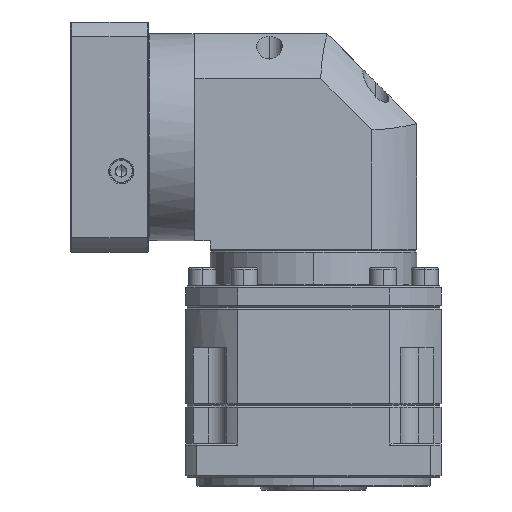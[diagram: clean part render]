
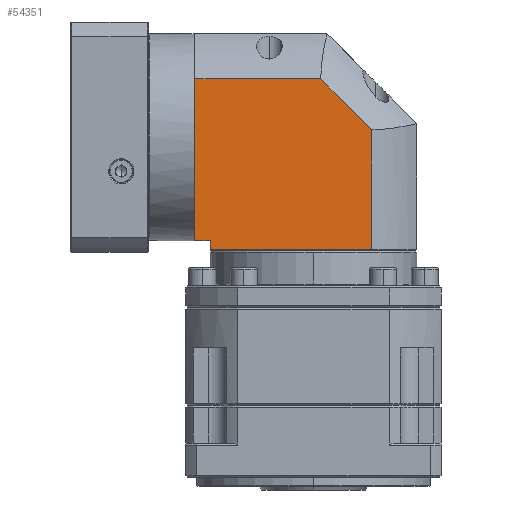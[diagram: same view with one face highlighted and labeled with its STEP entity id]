
A CAD part, left-side view. The second image highlights one B-rep face of the part: STEP entity #54351.
In plain terms, the highlighted planar face has unit normal (-1, 0, 0).
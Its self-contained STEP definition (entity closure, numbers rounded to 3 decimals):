
#2060 = CARTESIAN_POINT ( 'NONE',  ( -206.8, 18.8, -29.946 ) ) ;
#2547 = DIRECTION ( 'NONE',  ( 0., -1., 0. ) ) ;
#2832 = VECTOR ( 'NONE', #33994, 1000. ) ;
#2841 = CARTESIAN_POINT ( 'NONE',  ( -206.8, 133.8, 90.054 ) ) ;
#4140 = CARTESIAN_POINT ( 'NONE',  ( -206.8, 43.9, -36.446 ) ) ;
#4777 = CARTESIAN_POINT ( 'NONE',  ( -206.8, 142.2, -36.446 ) ) ;
#4934 = VERTEX_POINT ( 'NONE', #85869 ) ;
#7511 = CARTESIAN_POINT ( 'NONE',  ( -206.8, 72.238, 64.954 ) ) ;
#8741 = FACE_OUTER_BOUND ( 'NONE', #137095, .T. ) ;
#9798 = CARTESIAN_POINT ( 'NONE',  ( -206.8, 142.2, 64.954 ) ) ;
#13545 = DIRECTION ( 'NONE',  ( 0., -1., 0. ) ) ;
#13922 = ORIENTED_EDGE ( 'NONE', *, *, #63192, .T. ) ;
#18274 = ORIENTED_EDGE ( 'NONE', *, *, #108893, .F. ) ;
#21587 = VECTOR ( 'NONE', #2547, 1000. ) ;
#23215 = EDGE_CURVE ( 'NONE', #91777, #43128, #132761, .T. ) ;
#25953 = DIRECTION ( 'NONE',  ( 0., -1., 0. ) ) ;
#27990 = VERTEX_POINT ( 'NONE', #101640 ) ;
#33994 = DIRECTION ( 'NONE',  ( 0., 1., 0. ) ) ;
#38146 = CARTESIAN_POINT ( 'NONE',  ( -206.8, 72.238, 64.954 ) ) ;
#40107 = EDGE_CURVE ( 'NONE', #43128, #27990, #86775, .T. ) ;
#43128 = VERTEX_POINT ( 'NONE', #126118 ) ;
#46821 = CARTESIAN_POINT ( 'NONE',  ( -206.8, 18.8, 64.954 ) ) ;
#46887 = PLANE ( 'NONE',  #101719 ) ;
#49426 = VECTOR ( 'NONE', #25953, 1000. ) ;
#52616 = EDGE_CURVE ( 'NONE', #27990, #63660, #53948, .T. ) ;
#53948 = LINE ( 'NONE', #2060, #2832 ) ;
#54351 = ADVANCED_FACE ( 'NONE', ( #8741 ), #46887, .F. ) ;
#58000 = VECTOR ( 'NONE', #58400, 1000. ) ;
#58400 = DIRECTION ( 'NONE',  ( 0., 0., -1. ) ) ;
#59009 = LINE ( 'NONE', #46821, #21587 ) ;
#63192 = EDGE_CURVE ( 'NONE', #4934, #105462, #76496, .T. ) ;
#63482 = CARTESIAN_POINT ( 'NONE',  ( -206.8, 133.8, -24.946 ) ) ;
#63660 = VERTEX_POINT ( 'NONE', #138990 ) ;
#65832 = VERTEX_POINT ( 'NONE', #9798 ) ;
#69390 = DIRECTION ( 'NONE',  ( 0., 0., -1. ) ) ;
#69404 = LINE ( 'NONE', #4777, #74366 ) ;
#73950 = DIRECTION ( 'NONE',  ( 0., -0.707, -0.707 ) ) ;
#74366 = VECTOR ( 'NONE', #92171, 1000. ) ;
#75530 = ORIENTED_EDGE ( 'NONE', *, *, #99207, .F. ) ;
#76496 = LINE ( 'NONE', #122293, #49426 ) ;
#78595 = CARTESIAN_POINT ( 'NONE',  ( -206.8, 18.8, -36.446 ) ) ;
#81001 = ORIENTED_EDGE ( 'NONE', *, *, #23215, .F. ) ;
#82385 = ORIENTED_EDGE ( 'NONE', *, *, #52616, .F. ) ;
#83326 = ORIENTED_EDGE ( 'NONE', *, *, #40107, .F. ) ;
#85869 = CARTESIAN_POINT ( 'NONE',  ( -206.8, 142.2, -24.946 ) ) ;
#86775 = LINE ( 'NONE', #4140, #58000 ) ;
#91777 = VERTEX_POINT ( 'NONE', #38146 ) ;
#92171 = DIRECTION ( 'NONE',  ( 0., 0., 1. ) ) ;
#99207 = EDGE_CURVE ( 'NONE', #4934, #65832, #69404, .T. ) ;
#100545 = VECTOR ( 'NONE', #73950, 1000. ) ;
#101392 = DIRECTION ( 'NONE',  ( 1., 0., 0. ) ) ;
#101640 = CARTESIAN_POINT ( 'NONE',  ( -206.8, 43.9, -29.946 ) ) ;
#101719 = AXIS2_PLACEMENT_3D ( 'NONE', #78595, #101392, #13545 ) ;
#105462 = VERTEX_POINT ( 'NONE', #63482 ) ;
#108893 = EDGE_CURVE ( 'NONE', #65832, #91777, #59009, .T. ) ;
#111326 = VECTOR ( 'NONE', #69390, 1000. ) ;
#122293 = CARTESIAN_POINT ( 'NONE',  ( -206.8, 133.8, -24.946 ) ) ;
#123839 = ORIENTED_EDGE ( 'NONE', *, *, #125099, .T. ) ;
#125099 = EDGE_CURVE ( 'NONE', #105462, #63660, #136743, .T. ) ;
#126118 = CARTESIAN_POINT ( 'NONE',  ( -206.8, 43.9, 36.616 ) ) ;
#132761 = LINE ( 'NONE', #7511, #100545 ) ;
#136743 = LINE ( 'NONE', #2841, #111326 ) ;
#137095 = EDGE_LOOP ( 'NONE', ( #83326, #81001, #18274, #75530, #13922, #123839, #82385 ) ) ;
#138990 = CARTESIAN_POINT ( 'NONE',  ( -206.8, 133.8, -29.946 ) ) ;
